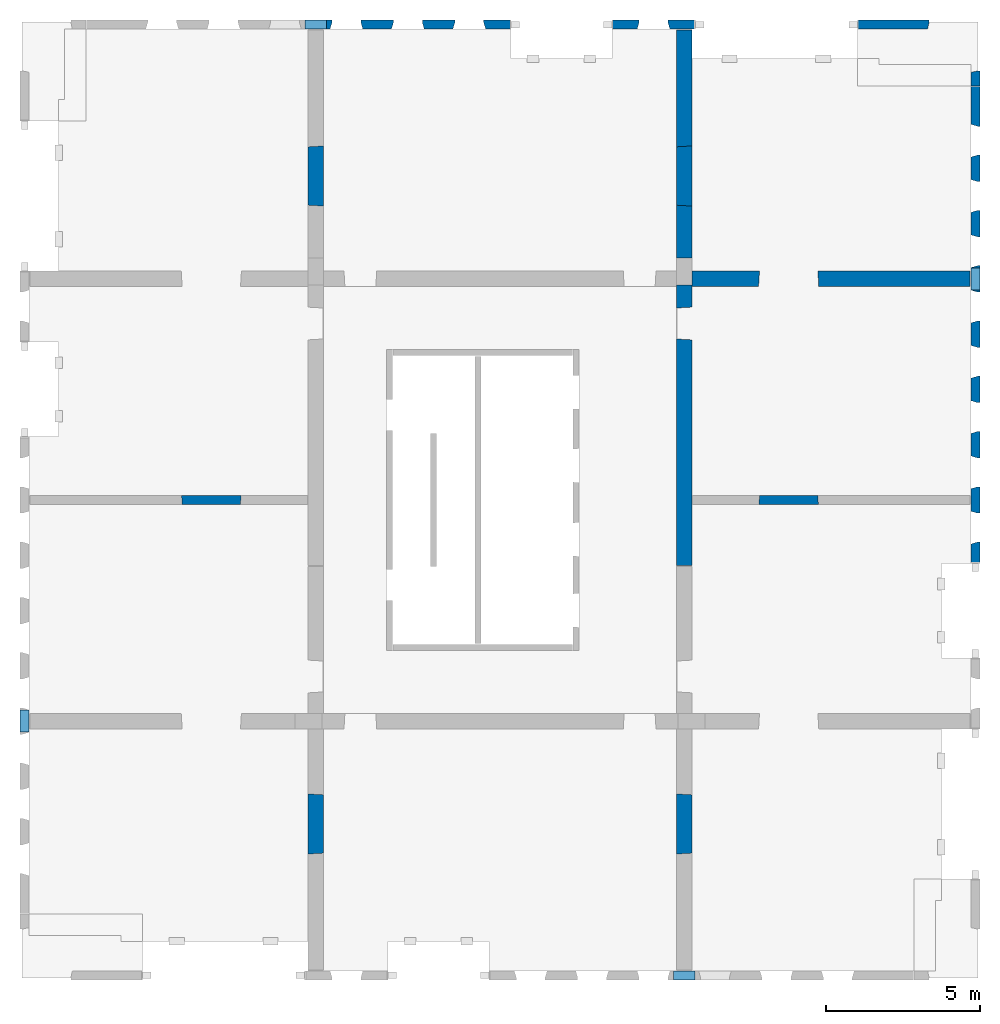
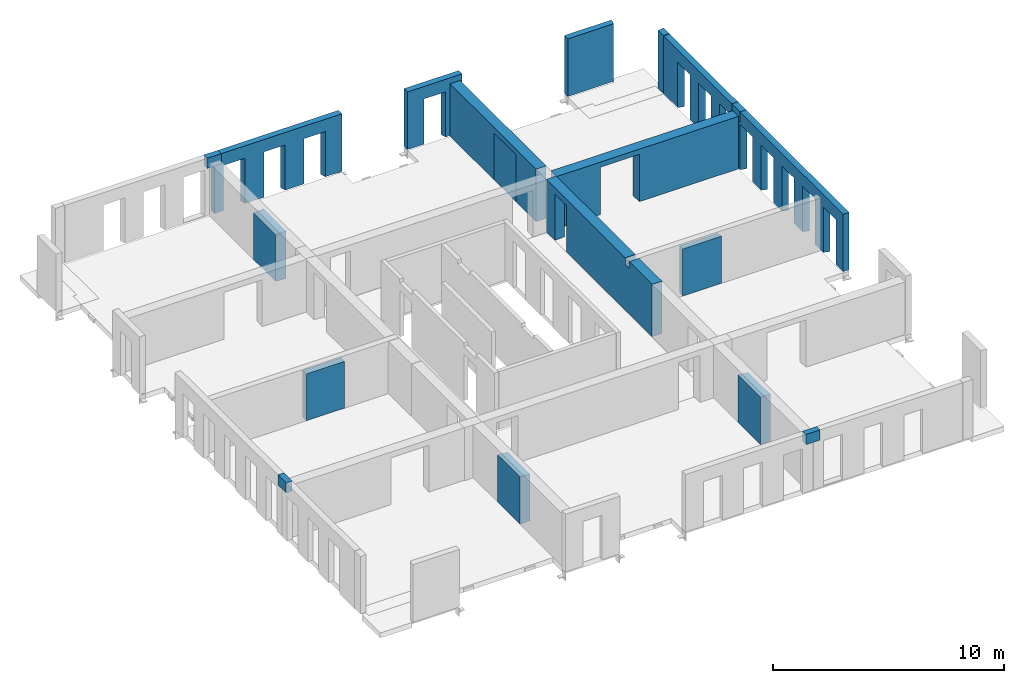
# One storey, part 4 of 4: 19 walls, 21 openings.
"""IFC2X3 building model written with IfcOpenShell, lengths in millimetres."""

import ifcopenshell
import ifcopenshell.guid

model = None  # the IFC model being written
_history = None  # IfcOwnerHistory: only IFC2X3 demands one
_inside = {}  # id of a spatial element -> (the spatial element, [elements in it])
_under = {}  # id of a project, library or spatial element -> (it, [spatial elements below it])
_declared = {}  # id of a project -> (the project, [libraries it declares])
_typed = {}  # id of a type object -> (the type object, [elements of that type])
_made_of = {}  # id of a material, layer set ... -> (it, [elements and type objects made of it])


def new_model(schema):
    """Start an empty IFC model of exactly this schema.

    Asked for "IFC4X3", IfcOpenShell would pick the latest addendum, in which some entities
    have other attributes; the version numbers below select the first issue.
    IFC2X3 requires an IfcOwnerHistory on every rooted entity: one is made here for all.
    """
    global model, _history
    if schema == "IFC4X3":
        model = ifcopenshell.file(schema_version=(4, 3, 0, 0))
    else:
        model = ifcopenshell.file(schema=schema)
    _inside.clear()
    _under.clear()
    _declared.clear()
    _typed.clear()
    _made_of.clear()
    _history = None
    if model.schema == "IFC2X3":
        org = make("IfcOrganization", Name="unknown")
        user = make(
            "IfcPersonAndOrganization",
            ThePerson=make("IfcPerson", FamilyName="unknown"),
            TheOrganization=org,
        )
        app = make(
            "IfcApplication",
            ApplicationDeveloper=org,
            Version="unknown",
            ApplicationFullName="unknown",
            ApplicationIdentifier="unknown",
        )
        _history = make(
            "IfcOwnerHistory",
            OwningUser=user,
            OwningApplication=app,
            ChangeAction="ADDED",
            CreationDate=0,
        )
    return model


def make(cls, **values):
    """One entity of the class cls with the attributes given. An attribute that is None is left unset."""
    return model.create_entity(
        cls, **{name: value for name, value in values.items() if value is not None}
    )


def entity(cls, *values):
    """Any entity or typed value of the class cls, its attributes in the order of the schema. None: left unset."""
    e = model.create_entity(cls)
    for i, value in enumerate(values):
        if value is not None:
            e[i] = value
    return e


def rooted(cls, **values):
    """An entity with a GlobalId (a new one), such as an element, a storey or a relation."""
    return make(cls, GlobalId=ifcopenshell.guid.new(), OwnerHistory=_history, **values)


def si_unit(unit_type, name, prefix=None):
    """IfcSIUnit, for example si_unit("LENGTHUNIT", "METRE", prefix="MILLI")."""
    return make("IfcSIUnit", UnitType=unit_type, Prefix=prefix, Name=name)


def converted_unit(unit_type, name, factor, base, dimensions=None, offset=None):
    """IfcConversionBasedUnit, such as the inch: factor (a typed value) times the base unit."""
    return make(
        "IfcConversionBasedUnit"
        if offset is None
        else "IfcConversionBasedUnitWithOffset",
        ConversionOffset=offset,
        Dimensions=None
        if dimensions is None
        else entity("IfcDimensionalExponents", *dimensions),
        UnitType=unit_type,
        Name=name,
        ConversionFactor=make(
            "IfcMeasureWithUnit", ValueComponent=factor, UnitComponent=base
        ),
    )


def derived_unit(unit_type, elements):
    """IfcDerivedUnit: a product of units, each with its exponent."""
    return make(
        "IfcDerivedUnit",
        Elements=[
            make("IfcDerivedUnitElement", Unit=unit, Exponent=power)
            for unit, power in elements
        ],
        UnitType=unit_type,
    )


def assignment(units):
    """IfcUnitAssignment: the units of a project."""
    return None if units is None else make("IfcUnitAssignment", Units=units)


def point(xyz):
    """IfcCartesianPoint."""
    return None if xyz is None else make("IfcCartesianPoint", Coordinates=xyz)


def direction(xyz):
    """IfcDirection."""
    return None if xyz is None else make("IfcDirection", DirectionRatios=xyz)


def frame(location, z_axis=None, x_axis=None):
    """IfcAxis2Placement3D, a coordinate frame: its origin and axes. An axis left out is left unset."""
    return make(
        "IfcAxis2Placement3D",
        Location=point(location),
        Axis=direction(z_axis),
        RefDirection=direction(x_axis),
    )


def frame_2d(location, x_axis=None):
    """IfcAxis2Placement2D, a coordinate frame in the plane: its origin and x axis."""
    return make(
        "IfcAxis2Placement2D", Location=point(location), RefDirection=direction(x_axis)
    )


def origin():
    """The frame at (0, 0, 0) with its axes left unset."""
    return frame((0.0, 0.0, 0.0))


def place(relative_to, where):
    """IfcLocalPlacement: puts the frame where relative to a parent placement (None: the world)."""
    return make(
        "IfcLocalPlacement", PlacementRelTo=relative_to, RelativePlacement=where
    )


def context(
    kind, dimensions, precision=None, world=None, true_north=None, identifier=None
):
    """IfcGeometricRepresentationContext, for example the 3D "Model" context."""
    return make(
        "IfcGeometricRepresentationContext",
        ContextIdentifier=identifier,
        ContextType=kind,
        CoordinateSpaceDimension=dimensions,
        Precision=precision,
        WorldCoordinateSystem=world,
        TrueNorth=true_north,
    )


def subcontext(parent, identifier, kind, view, scale=None):
    """IfcGeometricRepresentationSubContext, for example "Body" below "Model"."""
    return make(
        "IfcGeometricRepresentationSubContext",
        ContextIdentifier=identifier,
        ContextType=kind,
        ParentContext=parent,
        TargetScale=scale,
        TargetView=view,
    )


def project(units=None, contexts=None):
    """IfcProject with its units and contexts."""
    return rooted(
        "IfcProject",
        Name="project",
        RepresentationContexts=contexts,
        UnitsInContext=assignment(units),
    )


def spatial(cls, under=None, at=None, **own):
    """A site, building, storey or space (cls), placed at a placement, below another one or the project."""
    s = rooted(cls, ObjectPlacement=at, **own)
    if under is not None:
        _under.setdefault(under.id(), (under, []))[1].append(s)
    return s


def profile(cls, at=None, kind="AREA", **sizes):
    """A parametric profile (cls). Its sizes go by their IFC names, for example OverallWidth=200.0."""
    return make(cls, ProfileType=kind, Position=at, **sizes)


def rectangle(**sizes):
    """IfcRectangleProfileDef."""
    return profile("IfcRectangleProfileDef", **sizes)


def extrude(swept, where, along, depth):
    """IfcExtrudedAreaSolid: the profile swept, set in the frame where, extruded along a direction by depth."""
    return make(
        "IfcExtrudedAreaSolid",
        SweptArea=swept,
        Position=where,
        ExtrudedDirection=direction(along),
        Depth=depth,
    )


def faces_of(points, faces, orient=None, outer=None):
    """IfcFace entities. A face is a list of loops; a loop is a list of indices into points, from 0.

    orient and outer hold one flag for each loop. By default every Orientation is true, the
    first loop of a face is its IfcFaceOuterBound and the others are IfcFaceBound.
    """
    made = []
    for i, loops in enumerate(faces):
        bounds = []
        for j, loop in enumerate(loops):
            is_outer = j == 0 if outer is None else outer[i][j]
            bounds.append(
                make(
                    "IfcFaceOuterBound" if is_outer else "IfcFaceBound",
                    Bound=make("IfcPolyLoop", Polygon=[points[k] for k in loop]),
                    Orientation=True if orient is None else orient[i][j],
                )
            )
        made.append(make("IfcFace", Bounds=bounds))
    return made


def faceted_brep(points, faces, orient=None, outer=None, voids=None):
    """IfcFacetedBrep: a solid bounded by flat faces; with voids (closed shells), ...WithVoids."""
    shared = [point(p) for p in points]
    hull = make("IfcClosedShell", CfsFaces=faces_of(shared, faces, orient, outer))
    if voids is None:
        return make("IfcFacetedBrep", Outer=hull)
    return make(
        "IfcFacetedBrepWithVoids",
        Outer=hull,
        Voids=[
            make(cls, CfsFaces=faces_of(shared, fs, o, b)) for cls, fs, o, b in voids
        ],
    )


def shape(context_of_items, identifier, shape_type, items):
    """IfcShapeRepresentation: the items that make up one representation, for example the "Body"."""
    return make(
        "IfcShapeRepresentation",
        ContextOfItems=context_of_items,
        RepresentationIdentifier=identifier,
        RepresentationType=shape_type,
        Items=items,
    )


def material(Name=None, Category=None):
    """IfcMaterial."""
    return make("IfcMaterial", Name=Name, Category=Category)


def layer(
    of_material, thickness, ventilated=None, Name=None, Category=None, Priority=None
):
    """IfcMaterialLayer: one layer of a wall or slab, of a material (None: an air gap)."""
    return make(
        "IfcMaterialLayer",
        Material=of_material,
        LayerThickness=thickness,
        IsVentilated=ventilated,
        Name=Name,
        Category=Category,
        Priority=Priority,
    )


def layer_set(layers, Name=None):
    """IfcMaterialLayerSet."""
    return make("IfcMaterialLayerSet", MaterialLayers=layers, LayerSetName=Name)


def layer_usage(for_layer_set, set_direction, sense, offset, extent=None):
    """IfcMaterialLayerSetUsage: how a layer set lies in its element."""
    return make(
        "IfcMaterialLayerSetUsage",
        ForLayerSet=for_layer_set,
        LayerSetDirection=set_direction,
        DirectionSense=sense,
        OffsetFromReferenceLine=offset,
        ReferenceExtent=extent,
    )


def made_of(thing, what):
    """Note that an element or type object is made of a material, layer set ...; save() writes the relation."""
    if what is not None:
        _made_of.setdefault(what.id(), (what, []))[1].append(thing)
    return thing


def type_object(cls, material=None, **own):
    """A type object (cls), such as IfcWallType, which elements share."""
    return made_of(rooted(cls, **own), material)


def element(
    cls,
    number,
    at=None,
    inside=None,
    cuts=None,
    type_object=None,
    material=None,
    context=None,
    identifier="Body",
    shape_type=None,
    held_by="IfcProductDefinitionShape",
    body=None,
    shapes=None,
    **own,
):
    """One element of the class cls, such as IfcWall. Its Tag is "e" and its number.

    at: its placement. inside: the storey or other place that contains it. cuts: it is an
    opening in that element (IfcRelVoidsElement). A single representation is given by context,
    identifier, shape_type and body (its items); several are given by shapes. held_by: the class
    of the entity that holds the representations. save() writes the other relations.
    """
    e = rooted(cls, Tag="e%d" % number, ObjectPlacement=at, **own)
    if body is not None:
        shapes = [shape(context, identifier, shape_type, body)]
    if shapes is not None:
        e.Representation = make(held_by, Representations=shapes)
    if inside is not None:
        _inside.setdefault(inside.id(), (inside, []))[1].append(e)
    if cuts is not None:
        rooted(
            "IfcRelVoidsElement", RelatingBuildingElement=cuts, RelatedOpeningElement=e
        )
    if type_object is not None:
        _typed.setdefault(type_object.id(), (type_object, []))[1].append(e)
    return made_of(e, material)


def aggregate(whole, parts):
    """IfcRelAggregates: a whole, such as a stair, and the parts it consists of."""
    return rooted("IfcRelAggregates", RelatingObject=whole, RelatedObjects=parts)


def save(model, path):
    """Write the relations noted so far, then the file.

    IfcRelAggregates (storeys below a building ...), IfcRelContainedInSpatialStructure (elements
    in a storey), IfcRelDefinesByType, IfcRelAssociatesMaterial and IfcRelDeclares: one each for
    every whole, place, type object, material and project.
    """
    for whole, parts in _under.values():
        aggregate(whole, parts)
    for where, things in _inside.values():
        rooted(
            "IfcRelContainedInSpatialStructure",
            RelatedElements=things,
            RelatingStructure=where,
        )
    for kind, things in _typed.values():
        rooted("IfcRelDefinesByType", RelatedObjects=things, RelatingType=kind)
    for what, things in _made_of.values():
        rooted("IfcRelAssociatesMaterial", RelatedObjects=things, RelatingMaterial=what)
    for by, libraries in _declared.values():
        rooted("IfcRelDeclares", RelatingContext=by, RelatedDefinitions=libraries)
    model.write(path)


model = new_model("IFC2X3")

# Units and contexts
model_context = context("Model", 3, precision=0.01, world=origin(), true_north=direction((6.12303176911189e-17, 1.0)))
body_context = subcontext(model_context, "Body", "Model", "MODEL_VIEW")
ifc_project = project(units=[si_unit("LENGTHUNIT", "METRE", prefix="MILLI"), si_unit("AREAUNIT", "SQUARE_METRE"), si_unit("VOLUMEUNIT", "CUBIC_METRE"), converted_unit("PLANEANGLEUNIT", "DEGREE", entity("IfcRatioMeasure", 0.0174532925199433), si_unit("PLANEANGLEUNIT", "RADIAN"), dimensions=[0, 0, 0, 0, 0, 0, 0]), si_unit("MASSUNIT", "GRAM", prefix="KILO"), derived_unit("MASSDENSITYUNIT", [(si_unit("MASSUNIT", "GRAM", prefix="KILO"), 1), (si_unit("LENGTHUNIT", "METRE"), -3)]), si_unit("TIMEUNIT", "SECOND"), si_unit("FREQUENCYUNIT", "HERTZ"), si_unit("THERMODYNAMICTEMPERATUREUNIT", "DEGREE_CELSIUS"), derived_unit("THERMALTRANSMITTANCEUNIT", [(si_unit("MASSUNIT", "GRAM", prefix="KILO"), 1), (si_unit("THERMODYNAMICTEMPERATUREUNIT", "KELVIN"), -1), (si_unit("TIMEUNIT", "SECOND"), -3)]), derived_unit("VOLUMETRICFLOWRATEUNIT", [(si_unit("LENGTHUNIT", "METRE"), 3), (si_unit("TIMEUNIT", "SECOND"), -1)]), si_unit("ELECTRICCURRENTUNIT", "AMPERE"), si_unit("ELECTRICVOLTAGEUNIT", "VOLT"), si_unit("POWERUNIT", "WATT"), si_unit("FORCEUNIT", "NEWTON", prefix="KILO"), si_unit("ILLUMINANCEUNIT", "LUX"), si_unit("LUMINOUSFLUXUNIT", "LUMEN"), si_unit("LUMINOUSINTENSITYUNIT", "CANDELA"), derived_unit("USERDEFINED", [(si_unit("MASSUNIT", "GRAM", prefix="KILO"), -1), (si_unit("LENGTHUNIT", "METRE"), -2), (si_unit("TIMEUNIT", "SECOND"), 3), (si_unit("LUMINOUSFLUXUNIT", "LUMEN"), 1)]), derived_unit("LINEARVELOCITYUNIT", [(si_unit("LENGTHUNIT", "METRE"), 1), (si_unit("TIMEUNIT", "SECOND"), -1)]), si_unit("PRESSUREUNIT", "PASCAL"), derived_unit("USERDEFINED", [(si_unit("LENGTHUNIT", "METRE"), -2), (si_unit("MASSUNIT", "GRAM", prefix="KILO"), 1), (si_unit("TIMEUNIT", "SECOND"), -2)])], contexts=[model_context])

# Site, building, storey
site_placement = place(None, origin())
site = spatial("IfcSite", under=ifc_project, at=site_placement, Name="Default", CompositionType="ELEMENT")
building_placement = place(site_placement, origin())
building = spatial("IfcBuilding", under=site, at=building_placement, Name="niet gebruiken", CompositionType="ELEMENT")
storey_placement = place(building_placement, frame((0.0, 0.0, 60840.0)))
storey = spatial("IfcBuildingStorey", under=building, at=storey_placement, Name="19 negentiende verdieping", CompositionType="ELEMENT", Elevation=60840.0)

# Walls
ifc_material_1 = material(Name="NLRS_f2_beton ihwg")
ifc_layer_1 = layer(ifc_material_1, 300.0)
ifc_layer_set_1 = layer_set([ifc_layer_1], Name="Basic Wall:NLRS_21.21_WA_beton ihwg d=300_gen")
ifc_layer_usage_1 = layer_usage(ifc_layer_set_1, "AXIS2", "NEGATIVE", 150.0)
wall_type_1 = type_object("IfcWallType", Name="Basic Wall:NLRS_21.21_WA_beton ihwg d=300_gen", PredefinedType="STANDARD", material=ifc_layer_set_1)
wall_1_placement = place(storey_placement, frame((135395.0, 32980.0, 2455.0)))
element("IfcWallStandardCase", 1, at=wall_1_placement, inside=storey, type_object=wall_type_1, material=ifc_layer_usage_1, Name="Basic Wall:NLRS_21.21_WA_beton ihwg d=300_gen", ObjectType="Basic Wall:NLRS_21.21_WA_beton ihwg d=300_gen", context=body_context, shape_type="SweptSolid", body=[
    extrude(rectangle(XDim=710.000000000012, YDim=300.000000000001, at=frame_2d((355.000000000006, 0.0), x_axis=(-1.0, 0.0))), origin(), (0.0, 0.0, 1.0), 535.0),
])
ifc_layer_usage_2 = layer_usage(ifc_layer_set_1, "AXIS2", "NEGATIVE", 150.0)
wall_2_placement = place(storey_placement, frame((148105.0, 2020.0, 2455.0), z_axis=(0.0, 0.0, 1.0), x_axis=(-1.0, 0.0, 0.0)))
element("IfcWallStandardCase", 2, at=wall_2_placement, inside=storey, type_object=wall_type_1, material=ifc_layer_usage_2, Name="Basic Wall:NLRS_21.21_WA_beton ihwg d=300_gen", ObjectType="Basic Wall:NLRS_21.21_WA_beton ihwg d=300_gen", context=body_context, shape_type="SweptSolid", body=[
    extrude(rectangle(XDim=710.000000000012, YDim=300.0, at=frame_2d((355.000000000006, -1.4210854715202e-14), x_axis=(-1.0, 0.0))), origin(), (0.0, 0.0, 1.0), 535.0),
])
ifc_layer_usage_3 = layer_usage(ifc_layer_set_1, "AXIS2", "NEGATIVE", 150.0)
wall_3_placement = place(storey_placement, frame((157230.0, 25055.0, 2455.0), z_axis=(0.0, 0.0, 1.0), x_axis=(0.0, -1.0, 0.0)))
element("IfcWallStandardCase", 3, at=wall_3_placement, inside=storey, type_object=wall_type_1, material=ifc_layer_usage_3, Name="Basic Wall:NLRS_21.21_WA_beton ihwg d=300_gen", ObjectType="Basic Wall:NLRS_21.21_WA_beton ihwg d=300_gen", context=body_context, shape_type="SweptSolid", body=[
    extrude(rectangle(XDim=710.000000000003, YDim=300.000000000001, at=frame_2d((355.000000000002, 9.9475983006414e-13), x_axis=(-1.0, 0.0))), origin(), (0.0, 0.0, 1.0), 535.0),
])
ifc_layer_usage_4 = layer_usage(ifc_layer_set_1, "AXIS2", "NEGATIVE", 150.0)
wall_4_placement = place(storey_placement, frame((126270.0, 9945.0, 2455.0), z_axis=(0.0, 0.0, 1.0), x_axis=(0.0, 1.0, 0.0)))
element("IfcWallStandardCase", 4, at=wall_4_placement, inside=storey, type_object=wall_type_1, material=ifc_layer_usage_4, Name="Basic Wall:NLRS_21.21_WA_beton ihwg d=300_gen", ObjectType="Basic Wall:NLRS_21.21_WA_beton ihwg d=300_gen", context=body_context, shape_type="SweptSolid", body=[
    extrude(rectangle(XDim=710.000000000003, YDim=300.000000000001, at=frame_2d((355.000000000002, 0.0), x_axis=(-1.0, 0.0))), origin(), (0.0, 0.0, 1.0), 535.0),
])

# Wall, opening
ifc_material_2 = material(Name="NLRS_f2_beton prefab")
ifc_layer_2 = layer(ifc_material_2, 500.0)
ifc_layer_set_2 = layer_set([ifc_layer_2], Name="Basic Wall:NLRS_22.21_WA_beton prefab d=500_gen")
ifc_layer_usage_5 = layer_usage(ifc_layer_set_2, "AXIS2", "NEGATIVE", 250.0)
wall_type_2 = type_object("IfcWallType", Name="Basic Wall:NLRS_22.21_WA_beton prefab d=500_gen", PredefinedType="STANDARD", material=ifc_layer_set_2)
wall_5_placement = place(storey_placement, frame((157060.0, 24700.0, -70.0), z_axis=(0.0, 0.0, 1.0), x_axis=(-1.0, 0.0, 0.0)))
wall_5 = element("IfcWallStandardCase", 5, at=wall_5_placement, inside=storey, type_object=wall_type_2, material=ifc_layer_usage_5, Name="Basic Wall:NLRS_22.21_WA_beton prefab d=500_gen", ObjectType="Basic Wall:NLRS_22.21_WA_beton prefab d=500_gen", context=body_context, shape_type="SweptSolid", body=[
    extrude(rectangle(XDim=9060.00000000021, YDim=499.999999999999, at=frame_2d((4530.00000000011, -1.37845290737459e-12), x_axis=(-1.0, 0.0))), origin(), (0.0, 0.0, 1.0), 2769.99999999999),
])
opening_1_placement = place(wall_5_placement, frame((6890.0, 250.0, 0.0)))
element("IfcOpeningElement", 6, at=opening_1_placement, cuts=wall_5, Name="Basic Wall:NLRS_22.21_WA_beton prefab d=500_gen", ObjectType="Opening", context=body_context, shape_type="Brep", body=[
    faceted_brep([(-30.0, -500.0, 2470.0), (-1930.0, -500.0, 2470.0), (-1930.0, -500.0, 0.0), (-30.0, -500.0, 0.0), (0.0, 0.0, 2500.0), (0.0, 0.0, 0.0), (-1960.0, 0.0, 0.0), (-1960.0, 0.0, 2500.0)], [[[0, 1, 2, 3]], [[4, 5, 6, 7]], [[4, 7, 1, 0]], [[7, 6, 2, 1]], [[6, 5, 3, 2]], [[5, 4, 0, 3]]]),
])

ifc_layer_usage_6 = layer_usage(ifc_layer_set_2, "AXIS2", "NEGATIVE", 250.0)
wall_6_placement = place(storey_placement, frame((147750.0, 25380.0, -70.0), z_axis=(0.0, 0.0, 1.0), x_axis=(0.0, 1.0, 0.0)))
wall_6 = element("IfcWallStandardCase", 7, at=wall_6_placement, inside=storey, type_object=wall_type_2, material=ifc_layer_usage_6, Name="Basic Wall:NLRS_22.21_WA_beton prefab d=500_gen", ObjectType="Basic Wall:NLRS_22.21_WA_beton prefab d=500_gen", context=body_context, shape_type="SweptSolid", body=[
    extrude(rectangle(XDim=7429.99999999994, YDim=499.99999999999, at=frame_2d((3714.99999999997, 1.70530256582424e-12), x_axis=(-1.0, 0.0))), origin(), (0.0, 0.0, 1.0), 2769.99999999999),
])
opening_2_placement = place(wall_6_placement, frame((1690.0, 250.0, 0.0)))
element("IfcOpeningElement", 8, at=opening_2_placement, cuts=wall_6, Name="Basic Wall:NLRS_22.21_WA_beton prefab d=500_gen", ObjectType="Opening", context=body_context, shape_type="Brep", body=[
    faceted_brep([(1930.0, 0.0, 2470.0), (1930.0, 0.0, 0.0), (30.0, 0.0, 0.0), (30.0, 0.0, 2470.0), (1960.0, -500.0, 2500.0), (0.0, -500.0, 2500.0), (0.0, -500.0, 0.0), (1960.0, -500.0, 0.0)], [[[0, 1, 2, 3]], [[4, 5, 6, 7]], [[4, 0, 3, 5]], [[5, 3, 2, 6]], [[6, 2, 1, 7]], [[7, 1, 0, 4]]]),
])

# Wall, openings
ifc_layer_usage_7 = layer_usage(ifc_layer_set_2, "AXIS2", "NEGATIVE", 250.0)
wall_7_placement = place(storey_placement, frame((147750.0, 24500.0, -70.0), z_axis=(0.0, 0.0, 1.0), x_axis=(0.0, -1.0, 0.0)))
wall_7 = element("IfcWallStandardCase", 9, at=wall_7_placement, inside=storey, type_object=wall_type_2, material=ifc_layer_usage_7, Name="Basic Wall:NLRS_22.21_WA_beton prefab d=500_gen", ObjectType="Basic Wall:NLRS_22.21_WA_beton prefab d=500_gen", context=body_context, shape_type="SweptSolid", body=[
    extrude(rectangle(XDim=9140.00000000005, YDim=499.99999999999, at=frame_2d((4570.00000000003, -1.4210854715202e-14), x_axis=(-1.0, 0.0))), origin(), (0.0, 0.0, 1.0), 2770.00000000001),
])
opening_3_placement = place(wall_7_placement, frame((1786.0, -250.0, 0.0)))
element("IfcOpeningElement", 10, at=opening_3_placement, cuts=wall_7, Name="Basic Wall:NLRS_22.21_WA_beton prefab d=500_gen", ObjectType="Opening", context=body_context, shape_type="Brep", body=[
    faceted_brep([(-1066.0, 500.0, 2478.0), (-1066.0, 500.0, 0.0), (-1036.0, 0.0, 0.0), (-1036.0, 0.0, 2448.0), (0.0, 500.0, 0.0), (-30.0, 0.0, 0.0), (-30.0, 0.0, 2448.0), (0.0, 500.0, 2478.0)], [[[0, 1, 2, 3]], [[1, 4, 5, 2]], [[6, 3, 2, 5]], [[7, 4, 1, 0]], [[7, 0, 3, 6]], [[4, 7, 6, 5]]]),
])
opening_4_placement = place(wall_7_placement, origin())
element("IfcOpeningElement", 11, at=opening_4_placement, cuts=wall_7, Name="Basic Wall:NLRS_22.21_WA_beton prefab d=500_gen", ObjectType="Opening", context=body_context, shape_type="SweptSolid", body=[
    extrude(rectangle(XDim=350.000000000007, YDim=339.999999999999, at=frame_2d((-1.08002495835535e-12, 0.0), x_axis=(0.0, 1.0))), frame((7000.0, 250.0, 2595.0), z_axis=(0.0, -1.0, 0.0), x_axis=(-1.0, 0.0, 0.0)), (0.0, 0.0, 1.0), 500.0),
])

# Wall, opening
ifc_layer_3 = layer(ifc_material_2, 300.0)
ifc_layer_set_3 = layer_set([ifc_layer_3], Name="Basic Wall:NLRS_21.21_WA_beton prefab d=300/320_gen")
ifc_layer_usage_8 = layer_usage(ifc_layer_set_3, "AXIS2", "NEGATIVE", 150.0)
wall_type_3 = type_object("IfcWallType", Name="Basic Wall:NLRS_21.21_WA_beton prefab d=300/320_gen", PredefinedType="STANDARD", material=ifc_layer_set_3)
wall_8_placement = place(storey_placement, frame((145390.0, 32980.0, -50.0)))
wall_8 = element("IfcWallStandardCase", 12, at=wall_8_placement, inside=storey, type_object=wall_type_3, material=ifc_layer_usage_8, Name="Basic Wall:NLRS_21.21_WA_beton prefab d=300/320_gen", ObjectType="Basic Wall:NLRS_21.21_WA_beton prefab d=300/320_gen", context=body_context, shape_type="SweptSolid", body=[
    extrude(rectangle(XDim=2720.00000000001, YDim=300.000000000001, at=frame_2d((1360.0, -4.54747350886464e-13), x_axis=(-1.0, 0.0))), origin(), (0.0, 0.0, 1.0), 3040.0),
])
opening_5_placement = place(wall_8_placement, frame((825.0, -150.0, -20.0)))
element("IfcOpeningElement", 13, at=opening_5_placement, cuts=wall_8, Name="Basic Wall:NLRS_21.21_WA_beton prefab d=300/320_gen", ObjectType="Opening", context=body_context, shape_type="Brep", body=[
    faceted_brep([(0.0, 0.0, 2405.0), (0.0, 0.0, 0.0), (1070.0, 0.0, 0.0), (1070.0, 0.0, 2405.0), (1005.0, 219.0, 2370.0), (65.0, 219.0, 2370.0), (1005.0, 219.0, 0.0), (65.0, 219.0, 0.0), (65.0, 300.0, 0.0), (1005.0, 300.0, 0.0), (65.0, 300.0, 2370.0), (1005.0, 300.0, 2370.0)], [[[0, 1, 2, 3]], [[3, 4, 5, 0]], [[2, 6, 4, 3]], [[1, 7, 8, 9, 6, 2]], [[0, 5, 7, 1]], [[10, 11, 9, 8]], [[10, 5, 4, 11]], [[11, 4, 6, 9]], [[8, 7, 5, 10]]]),
])

# Wall, openings
ifc_layer_usage_9 = layer_usage(ifc_layer_set_3, "AXIS2", "NEGATIVE", 150.0)
wall_9_placement = place(storey_placement, frame((157230.0, 30960.0, -50.0), z_axis=(0.0, 0.0, 1.0), x_axis=(0.0, -1.0, 0.0)))
wall_9 = element("IfcWallStandardCase", 14, at=wall_9_placement, inside=storey, type_object=wall_type_3, material=ifc_layer_usage_9, Name="Basic Wall:NLRS_21.21_WA_beton prefab d=300/320_gen", ObjectType="Basic Wall:NLRS_21.21_WA_beton prefab d=300/320_gen", context=body_context, shape_type="SweptSolid", body=[
    extrude(rectangle(XDim=6249.99999999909, YDim=300.000000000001, at=frame_2d((3124.99999999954, -8.61177795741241e-12), x_axis=(-1.0, 0.0))), origin(), (0.0, 0.0, 1.0), 3039.99999999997),
])
opening_6_placement = place(wall_9_placement, frame((2295.0, -150.0, -20.0)))
element("IfcOpeningElement", 15, at=opening_6_placement, cuts=wall_9, Name="Basic Wall:NLRS_21.21_WA_beton prefab d=300/320_gen", ObjectType="Opening", context=body_context, shape_type="Brep", body=[
    faceted_brep([(-1070.0, 0.0, 2405.0), (-1070.0, 0.0, 0.0), (0.0, 0.0, 0.0), (0.0, 0.0, 2405.0), (-65.0, 219.0, 2370.0), (-1005.0, 219.0, 2370.0), (-65.0, 219.0, 0.0), (-1005.0, 219.0, 0.0), (-1005.0, 300.0, 0.0), (-65.0, 300.0, 0.0), (-1005.0, 300.0, 2370.0), (-65.0, 300.0, 2370.0)], [[[0, 1, 2, 3]], [[3, 4, 5, 0]], [[2, 6, 4, 3]], [[1, 7, 8, 9, 6, 2]], [[0, 5, 7, 1]], [[10, 11, 9, 8]], [[10, 5, 4, 11]], [[11, 4, 6, 9]], [[8, 7, 5, 10]]]),
])
opening_7_placement = place(wall_9_placement, frame((4095.0, -150.0, -20.0)))
element("IfcOpeningElement", 16, at=opening_7_placement, cuts=wall_9, Name="Basic Wall:NLRS_21.21_WA_beton prefab d=300/320_gen", ObjectType="Opening", context=body_context, shape_type="Brep", body=[
    faceted_brep([(-1070.0, 0.0, 2405.0), (-1070.0, 0.0, 0.0), (0.0, 0.0, 0.0), (0.0, 0.0, 2405.0), (-65.0, 219.0, 2370.0), (-1005.0, 219.0, 2370.0), (-65.0, 219.0, 0.0), (-1005.0, 219.0, 0.0), (-1005.0, 300.0, 0.0), (-65.0, 300.0, 0.0), (-1005.0, 300.0, 2370.0), (-65.0, 300.0, 2370.0)], [[[0, 1, 2, 3]], [[3, 4, 5, 0]], [[2, 6, 4, 3]], [[1, 7, 8, 9, 6, 2]], [[0, 5, 7, 1]], [[10, 11, 9, 8]], [[10, 5, 4, 11]], [[11, 4, 6, 9]], [[8, 7, 5, 10]]]),
])
opening_8_placement = place(wall_9_placement, frame((5895.0, -150.0, -20.0)))
element("IfcOpeningElement", 17, at=opening_8_placement, cuts=wall_9, Name="Basic Wall:NLRS_21.21_WA_beton prefab d=300/320_gen", ObjectType="Opening", context=body_context, shape_type="Brep", body=[
    faceted_brep([(-1070.0, 0.0, 2405.0), (-1070.0, 0.0, 0.0), (0.0, 0.0, 0.0), (0.0, 0.0, 2405.0), (-65.0, 219.0, 2370.0), (-1005.0, 219.0, 2370.0), (-65.0, 219.0, 0.0), (-1005.0, 219.0, 0.0), (-1005.0, 300.0, 0.0), (-65.0, 300.0, 0.0), (-1005.0, 300.0, 2370.0), (-65.0, 300.0, 2370.0)], [[[0, 1, 2, 3]], [[3, 4, 5, 0]], [[2, 6, 4, 3]], [[1, 7, 8, 9, 6, 2]], [[0, 5, 7, 1]], [[10, 11, 9, 8]], [[10, 5, 4, 11]], [[11, 4, 6, 9]], [[8, 7, 5, 10]]]),
])
opening_9_placement = place(wall_9_placement, origin())
element("IfcOpeningElement", 18, at=opening_9_placement, cuts=wall_9, Name="Basic Wall:NLRS_21.21_WA_beton prefab d=300/320_gen", ObjectType="Opening", context=body_context, shape_type="SweptSolid", body=[
    extrude(rectangle(XDim=534.99999999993, YDim=344.999999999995, at=frame_2d((0.0, -2.17426077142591e-12), x_axis=(1.0, 0.0))), frame((6077.49999999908, 150.0, 2772.5), z_axis=(0.0, -1.0, 0.0), x_axis=(0.0, 0.0, 1.0)), (0.0, 0.0, 1.0), 300.0),
])

# Wall, opening
ifc_layer_usage_10 = layer_usage(ifc_layer_set_3, "AXIS2", "NEGATIVE", 150.0)
wall_10_placement = place(storey_placement, frame((153390.0, 32980.0, -50.0)))
wall_10 = element("IfcWallStandardCase", 19, at=wall_10_placement, inside=storey, type_object=wall_type_3, material=ifc_layer_usage_10, Name="Basic Wall:NLRS_21.21_WA_beton prefab d=300/320_gen", ObjectType="Basic Wall:NLRS_21.21_WA_beton prefab d=300/320_gen", context=body_context, shape_type="SweptSolid", body=[
    extrude(rectangle(XDim=2330.00000000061, YDim=300.000000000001, at=frame_2d((1165.00000000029, -1.29318777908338e-12), x_axis=(-1.0, 0.0))), origin(), (0.0, 0.0, 1.0), 3040.0),
])
opening_10_placement = place(wall_10_placement, frame((2265.0, -250.0, 0.0)))
element("IfcOpeningElement", 20, at=opening_10_placement, cuts=wall_10, Name="Basic Wall:NLRS_21.21_WA_beton prefab d=300/320_gen", ObjectType="Opening", context=body_context, shape_type="Brep", body=[
    faceted_brep([(65.0, 0.0, 3040.0), (65.0, 319.0, 3040.0), (0.0, 0.0, 3040.0), (65.0, 0.0, 0.0), (0.0, 0.0, 0.0), (65.0, 319.0, 0.0)], [[[0, 1, 2]], [[3, 4, 5]], [[2, 4, 3, 0]], [[0, 3, 5, 1]], [[1, 5, 4, 2]]]),
])

ifc_layer_usage_11 = layer_usage(ifc_layer_set_3, "AXIS2", "NEGATIVE", 150.0)
wall_11_placement = place(storey_placement, frame((157230.0, 31470.0, -50.0), z_axis=(0.0, 0.0, 1.0), x_axis=(0.0, -1.0, 0.0)))
wall_11 = element("IfcWallStandardCase", 21, at=wall_11_placement, inside=storey, type_object=wall_type_3, material=ifc_layer_usage_11, Name="Basic Wall:NLRS_21.21_WA_beton prefab d=300/320_gen", ObjectType="Basic Wall:NLRS_21.21_WA_beton prefab d=300/320_gen", context=body_context, shape_type="SweptSolid", body=[
    extrude(rectangle(XDim=489.999999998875, YDim=300.000000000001, at=frame_2d((244.999999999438, -7.8159700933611e-13), x_axis=(-1.0, 0.0))), origin(), (0.0, 0.0, 1.0), 3040.0),
])
opening_11_placement = place(wall_11_placement, frame((65.0, -250.0, 0.0)))
element("IfcOpeningElement", 22, at=opening_11_placement, cuts=wall_11, Name="Basic Wall:NLRS_21.21_WA_beton prefab d=300/320_gen", ObjectType="Opening", context=body_context, shape_type="Brep", body=[
    faceted_brep([(-65.0, 0.0, 3040.0), (0.0, 0.0, 3040.0), (-65.0, 319.0, 3040.0), (-65.0, 0.0, 0.0), (-65.0, 319.0, 0.0), (0.0, 0.0, 0.0)], [[[0, 1, 2]], [[3, 4, 5]], [[1, 0, 3, 5]], [[0, 2, 4, 3]], [[2, 1, 5, 4]]]),
])

# Wall, openings
ifc_layer_usage_12 = layer_usage(ifc_layer_set_3, "AXIS2", "NEGATIVE", 150.0)
wall_12_placement = place(storey_placement, frame((157230.0, 24690.0, -50.0), z_axis=(0.0, 0.0, 1.0), x_axis=(0.0, -1.0, 0.0)))
wall_12 = element("IfcWallStandardCase", 23, at=wall_12_placement, inside=storey, type_object=wall_type_3, material=ifc_layer_usage_12, Name="Basic Wall:NLRS_21.21_WA_beton prefab d=300/320_gen", ObjectType="Basic Wall:NLRS_21.21_WA_beton prefab d=300/320_gen", context=body_context, shape_type="SweptSolid", body=[
    extrude(rectangle(XDim=9250.00000000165, YDim=300.000000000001, at=frame_2d((4625.00000000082, -4.43378667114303e-12), x_axis=(-1.0, 0.0))), origin(), (0.0, 0.0, 1.0), 3040.0),
])
opening_12_placement = place(wall_12_placement, frame((8625.0, -150.0, -20.0)))
element("IfcOpeningElement", 24, at=opening_12_placement, cuts=wall_12, Name="Basic Wall:NLRS_21.21_WA_beton prefab d=300/320_gen", ObjectType="Opening", context=body_context, shape_type="Brep", body=[
    faceted_brep([(-1070.0, 0.0, 2405.0), (-1070.0, 0.0, 0.0), (0.0, 0.0, 0.0), (0.0, 0.0, 2405.0), (-65.0, 219.0, 2370.0), (-1005.0, 219.0, 2370.0), (-65.0, 219.0, 0.0), (-1005.0, 219.0, 0.0), (-1005.0, 300.0, 0.0), (-65.0, 300.0, 0.0), (-1005.0, 300.0, 2370.0), (-65.0, 300.0, 2370.0)], [[[0, 1, 2, 3]], [[3, 4, 5, 0]], [[2, 6, 4, 3]], [[1, 7, 8, 9, 6, 2]], [[0, 5, 7, 1]], [[10, 11, 9, 8]], [[10, 5, 4, 11]], [[11, 4, 6, 9]], [[8, 7, 5, 10]]]),
])
opening_13_placement = place(wall_12_placement, frame((5025.0, -150.0, -20.0)))
element("IfcOpeningElement", 25, at=opening_13_placement, cuts=wall_12, Name="Basic Wall:NLRS_21.21_WA_beton prefab d=300/320_gen", ObjectType="Opening", context=body_context, shape_type="Brep", body=[
    faceted_brep([(-1070.0, 0.0, 2405.0), (-1070.0, 0.0, 0.0), (0.0, 0.0, 0.0), (0.0, 0.0, 2405.0), (-65.0, 219.0, 2370.0), (-1005.0, 219.0, 2370.0), (-65.0, 219.0, 0.0), (-1005.0, 219.0, 0.0), (-1005.0, 300.0, 0.0), (-65.0, 300.0, 0.0), (-1005.0, 300.0, 2370.0), (-65.0, 300.0, 2370.0)], [[[0, 1, 2, 3]], [[3, 4, 5, 0]], [[2, 6, 4, 3]], [[1, 7, 8, 9, 6, 2]], [[0, 5, 7, 1]], [[10, 11, 9, 8]], [[10, 5, 4, 11]], [[11, 4, 6, 9]], [[8, 7, 5, 10]]]),
])
opening_14_placement = place(wall_12_placement, frame((3225.0, -150.0, -20.0)))
element("IfcOpeningElement", 26, at=opening_14_placement, cuts=wall_12, Name="Basic Wall:NLRS_21.21_WA_beton prefab d=300/320_gen", ObjectType="Opening", context=body_context, shape_type="Brep", body=[
    faceted_brep([(-1070.0, 0.0, 2405.0), (-1070.0, 0.0, 0.0), (0.0, 0.0, 0.0), (0.0, 0.0, 2405.0), (-65.0, 219.0, 2370.0), (-1005.0, 219.0, 2370.0), (-65.0, 219.0, 0.0), (-1005.0, 219.0, 0.0), (-1005.0, 300.0, 0.0), (-65.0, 300.0, 0.0), (-1005.0, 300.0, 2370.0), (-65.0, 300.0, 2370.0)], [[[0, 1, 2, 3]], [[3, 4, 5, 0]], [[2, 6, 4, 3]], [[1, 7, 8, 9, 6, 2]], [[0, 5, 7, 1]], [[10, 11, 9, 8]], [[10, 5, 4, 11]], [[11, 4, 6, 9]], [[8, 7, 5, 10]]]),
])
opening_15_placement = place(wall_12_placement, frame((6825.0, -150.0, -20.0)))
element("IfcOpeningElement", 27, at=opening_15_placement, cuts=wall_12, Name="Basic Wall:NLRS_21.21_WA_beton prefab d=300/320_gen", ObjectType="Opening", context=body_context, shape_type="Brep", body=[
    faceted_brep([(-1070.0, 0.0, 2405.0), (-1070.0, 0.0, 0.0), (0.0, 0.0, 0.0), (0.0, 0.0, 2405.0), (-65.0, 219.0, 2370.0), (-1005.0, 219.0, 2370.0), (-65.0, 219.0, 0.0), (-1005.0, 219.0, 0.0), (-1005.0, 300.0, 0.0), (-65.0, 300.0, 0.0), (-1005.0, 300.0, 2370.0), (-65.0, 300.0, 2370.0)], [[[0, 1, 2, 3]], [[3, 4, 5, 0]], [[2, 6, 4, 3]], [[1, 7, 8, 9, 6, 2]], [[0, 5, 7, 1]], [[10, 11, 9, 8]], [[10, 5, 4, 11]], [[11, 4, 6, 9]], [[8, 7, 5, 10]]]),
])
opening_16_placement = place(wall_12_placement, frame((1425.0, -150.0, -20.0)))
element("IfcOpeningElement", 28, at=opening_16_placement, cuts=wall_12, Name="Basic Wall:NLRS_21.21_WA_beton prefab d=300/320_gen", ObjectType="Opening", context=body_context, shape_type="Brep", body=[
    faceted_brep([(0.0, 0.0, 2405.0), (-1070.0, 0.0, 2405.0), (-1070.0, 0.0, 0.0), (0.0, 0.0, 0.0), (-65.0, 219.0, 2370.0), (-1005.0, 219.0, 2370.0), (-1005.0, 219.0, 0.0), (-1005.0, 300.0, 0.0), (-65.0, 300.0, 0.0), (-65.0, 219.0, 0.0), (-65.0, 300.0, 2370.0), (-1005.0, 300.0, 2370.0)], [[[0, 1, 2, 3]], [[1, 0, 4, 5]], [[2, 1, 5, 6]], [[3, 2, 6, 7, 8, 9]], [[0, 3, 9, 4]], [[10, 8, 7, 11]], [[10, 11, 5, 4]], [[11, 7, 6, 5]], [[8, 10, 4, 9]]]),
])
opening_17_placement = place(wall_12_placement, origin())
element("IfcOpeningElement", 29, at=opening_17_placement, cuts=wall_12, Name="Basic Wall:NLRS_21.21_WA_beton prefab d=300/320_gen", ObjectType="Opening", context=body_context, shape_type="SweptSolid", body=[
    extrude(rectangle(XDim=534.999999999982, YDim=345.000000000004, at=frame_2d((-2.1600499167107e-12, 8.66862137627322e-12), x_axis=(0.0, 1.0))), frame((172.5, 150.0, 2772.50000000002), z_axis=(0.0, -1.0, 0.0), x_axis=(-1.0, 0.0, 0.0)), (0.0, 0.0, 1.0), 300.0),
])

ifc_layer_usage_13 = layer_usage(ifc_layer_set_3, "AXIS2", "NEGATIVE", 150.0)
wall_13_placement = place(storey_placement, frame((135760.0, 32980.0, -50.0)))
wall_13 = element("IfcWallStandardCase", 30, at=wall_13_placement, inside=storey, type_object=wall_type_3, material=ifc_layer_usage_13, Name="Basic Wall:NLRS_21.21_WA_beton prefab d=300/320_gen", ObjectType="Basic Wall:NLRS_21.21_WA_beton prefab d=300/320_gen", context=body_context, shape_type="SweptSolid", body=[
    extrude(rectangle(XDim=6350.00000000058, YDim=300.000000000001, at=frame_2d((3175.00000000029, 0.0), x_axis=(-1.0, 0.0))), origin(), (0.0, 0.0, 1.0), 3040.0),
])
opening_18_placement = place(wall_13_placement, frame((455.0, -150.0, -20.0)))
element("IfcOpeningElement", 31, at=opening_18_placement, cuts=wall_13, Name="Basic Wall:NLRS_21.21_WA_beton prefab d=300/320_gen", ObjectType="Opening", context=body_context, shape_type="Brep", body=[
    faceted_brep([(1070.0, 0.0, 2405.0), (0.0, 0.0, 2405.0), (0.0, 0.0, 0.0), (1070.0, 0.0, 0.0), (1005.0, 219.0, 2370.0), (65.0, 219.0, 2370.0), (65.0, 219.0, 0.0), (65.0, 300.0, 0.0), (1005.0, 300.0, 0.0), (1005.0, 219.0, 0.0), (1005.0, 300.0, 2370.0), (65.0, 300.0, 2370.0)], [[[0, 1, 2, 3]], [[1, 0, 4, 5]], [[2, 1, 5, 6]], [[3, 2, 6, 7, 8, 9]], [[0, 3, 9, 4]], [[10, 8, 7, 11]], [[10, 11, 5, 4]], [[11, 7, 6, 5]], [[8, 10, 4, 9]]]),
])
opening_19_placement = place(wall_13_placement, frame((2455.0, -150.0, -20.0)))
element("IfcOpeningElement", 32, at=opening_19_placement, cuts=wall_13, Name="Basic Wall:NLRS_21.21_WA_beton prefab d=300/320_gen", ObjectType="Opening", context=body_context, shape_type="Brep", body=[
    faceted_brep([(1070.0, 0.0, 2405.0), (0.0, 0.0, 2405.0), (0.0, 0.0, 0.0), (1070.0, 0.0, 0.0), (1005.0, 219.0, 2370.0), (65.0, 219.0, 2370.0), (65.0, 219.0, 0.0), (65.0, 300.0, 0.0), (1005.0, 300.0, 0.0), (1005.0, 219.0, 0.0), (1005.0, 300.0, 2370.0), (65.0, 300.0, 2370.0)], [[[0, 1, 2, 3]], [[1, 0, 4, 5]], [[2, 1, 5, 6]], [[3, 2, 6, 7, 8, 9]], [[0, 3, 9, 4]], [[10, 8, 7, 11]], [[10, 11, 5, 4]], [[11, 7, 6, 5]], [[8, 10, 4, 9]]]),
])
opening_20_placement = place(wall_13_placement, frame((4455.0, -150.0, -20.0)))
element("IfcOpeningElement", 33, at=opening_20_placement, cuts=wall_13, Name="Basic Wall:NLRS_21.21_WA_beton prefab d=300/320_gen", ObjectType="Opening", context=body_context, shape_type="Brep", body=[
    faceted_brep([(1070.0, 0.0, 2405.0), (0.0, 0.0, 2405.0), (0.0, 0.0, 0.0), (1070.0, 0.0, 0.0), (1005.0, 219.0, 2370.0), (65.0, 219.0, 2370.0), (65.0, 219.0, 0.0), (65.0, 300.0, 0.0), (1005.0, 300.0, 0.0), (1005.0, 219.0, 0.0), (1005.0, 300.0, 2370.0), (65.0, 300.0, 2370.0)], [[[0, 1, 2, 3]], [[1, 0, 4, 5]], [[2, 1, 5, 6]], [[3, 2, 6, 7, 8, 9]], [[0, 3, 9, 4]], [[10, 8, 7, 11]], [[10, 11, 5, 4]], [[11, 7, 6, 5]], [[8, 10, 4, 9]]]),
])
opening_21_placement = place(wall_13_placement, origin())
element("IfcOpeningElement", 34, at=opening_21_placement, cuts=wall_13, Name="Basic Wall:NLRS_21.21_WA_beton prefab d=300/320_gen", ObjectType="Opening", context=body_context, shape_type="SweptSolid", body=[
    extrude(rectangle(XDim=534.999999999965, YDim=345.000000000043, at=frame_2d((0.0, 0.0), x_axis=(0.0, 1.0))), frame((172.500000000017, 150.0, 2772.50000000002), z_axis=(0.0, -1.0, 0.0), x_axis=(-1.0, 0.0, 0.0)), (0.0, 0.0, 1.0), 300.0),
])

# Walls
ifc_material_3 = material(Name="NLRS_f2_beton prefab dichtstorten")
wall_type_4 = type_object("IfcWallType", Name="Parametric Wall:NLRS_22.21_WA_beton prefab d=500 1900x2470_gen", PredefinedType="NOTDEFINED", material=ifc_material_3)
wall_14_placement = place(storey_placement, frame((135500.0, 5970.0, -70.0), z_axis=(0.0, 0.0, 1.0), x_axis=(0.0, 1.0, 0.0)))
element("IfcWall", 35, at=wall_14_placement, inside=storey, type_object=wall_type_4, material=ifc_material_3, Name="Parametric Wall:NLRS_22.21_WA_beton prefab d=500 1900x2470_gen", ObjectType="Parametric Wall:NLRS_22.21_WA_beton prefab d=500 1900x2470_gen", context=body_context, shape_type="Brep", body=[
    faceted_brep([(1960.0, 0.0, 2500.0), (1960.0, 0.0, 0.0), (0.0, 0.0, 0.0), (0.0, 0.0, 2500.0), (1930.0, -500.0, 2470.0), (30.0, -500.0, 2470.0), (30.0, -500.0, 0.0), (1930.0, -500.0, 0.0)], [[[0, 1, 2, 3]], [[4, 5, 6, 7]], [[4, 7, 1, 0]], [[7, 6, 2, 1]], [[6, 5, 3, 2]], [[5, 4, 0, 3]]]),
])
for number, where, z_axis, x_axis in (
    (36, (147500.0, 27070.0, -70.0), (0.0, 0.0, 1.0), (0.0, 1.0, 0.0)),
    (37, (135500.0, 27070.0, -70.0), (0.0, 0.0, 1.0), (0.0, 1.0, 0.0)),
):
    element("IfcWall", number, at=place(storey_placement, frame(where, z_axis=z_axis, x_axis=x_axis)), inside=storey, type_object=wall_type_4, material=ifc_material_3, Name="Parametric Wall:NLRS_22.21_WA_beton prefab d=500 1900x2470_gen", ObjectType="Parametric Wall:NLRS_22.21_WA_beton prefab d=500 1900x2470_gen", context=body_context, shape_type="Brep", body=[
        faceted_brep([(0.0, -500.0, 2500.0), (0.0, -500.0, 0.0), (1960.0, -500.0, 0.0), (1960.0, -500.0, 2500.0), (30.0, 0.0, 2470.0), (1930.0, 0.0, 2470.0), (1930.0, 0.0, 0.0), (30.0, 0.0, 0.0)], [[[0, 1, 2, 3]], [[4, 5, 6, 7]], [[4, 7, 1, 0]], [[7, 6, 2, 1]], [[6, 5, 3, 2]], [[5, 4, 0, 3]]]),
    ])
wall_15_placement = place(storey_placement, frame((147500.0, 5970.0, -70.0), z_axis=(0.0, 0.0, 1.0), x_axis=(0.0, 1.0, 0.0)))
element("IfcWall", 38, at=wall_15_placement, inside=storey, type_object=wall_type_4, material=ifc_material_3, Name="Parametric Wall:NLRS_22.21_WA_beton prefab d=500 1900x2470_gen", ObjectType="Parametric Wall:NLRS_22.21_WA_beton prefab d=500 1900x2470_gen", context=body_context, shape_type="Brep", body=[
    faceted_brep([(1960.0, 0.0, 2500.0), (1960.0, 0.0, 0.0), (0.0, 0.0, 0.0), (0.0, 0.0, 2500.0), (1930.0, -500.0, 2470.0), (30.0, -500.0, 2470.0), (30.0, -500.0, 0.0), (1930.0, -500.0, 0.0)], [[[0, 1, 2, 3]], [[4, 5, 6, 7]], [[4, 7, 1, 0]], [[7, 6, 2, 1]], [[6, 5, 3, 2]], [[5, 4, 0, 3]]]),
])
wall_16_placement = place(storey_placement, frame((131382.0, 17350.0, -70.0)))
element("IfcWall", 39, at=wall_16_placement, inside=storey, type_object=wall_type_4, material=ifc_material_3, Name="Parametric Wall:NLRS_22.21_WA_beton prefab d=500 1900x2470_gen", ObjectType="Parametric Wall:NLRS_22.21_WA_beton prefab d=500 1900x2470_gen", context=body_context, shape_type="Brep", body=[
    faceted_brep([(1936.0, 300.0, 2488.0), (1936.0, 300.0, 0.0), (0.0, 300.0, 0.0), (0.0, 300.0, 2488.0), (1918.0, 0.0, 2470.0), (18.0, 0.0, 2470.0), (18.0, 0.0, 0.0), (1918.0, 0.0, 0.0)], [[[0, 1, 2, 3]], [[4, 5, 6, 7]], [[4, 7, 1, 0]], [[7, 6, 2, 1]], [[6, 5, 3, 2]], [[5, 4, 0, 3]]]),
])
wall_17_placement = place(storey_placement, frame((150182.0, 17350.0, -70.0)))
element("IfcWall", 40, at=wall_17_placement, inside=storey, type_object=wall_type_4, material=ifc_material_3, Name="Parametric Wall:NLRS_22.21_WA_beton prefab d=500 1900x2470_gen", ObjectType="Parametric Wall:NLRS_22.21_WA_beton prefab d=500 1900x2470_gen", context=body_context, shape_type="Brep", body=[
    faceted_brep([(0.0, 0.0, 2488.0), (0.0, 0.0, 0.0), (1936.0, 0.0, 0.0), (1936.0, 0.0, 2488.0), (18.0, 300.0, 2470.0), (1918.0, 300.0, 2470.0), (1918.0, 300.0, 0.0), (18.0, 300.0, 0.0)], [[[0, 1, 2, 3]], [[4, 5, 6, 7]], [[4, 7, 1, 0]], [[7, 6, 2, 1]], [[6, 5, 3, 2]], [[5, 4, 0, 3]]]),
])

save(model, "model.ifc")
